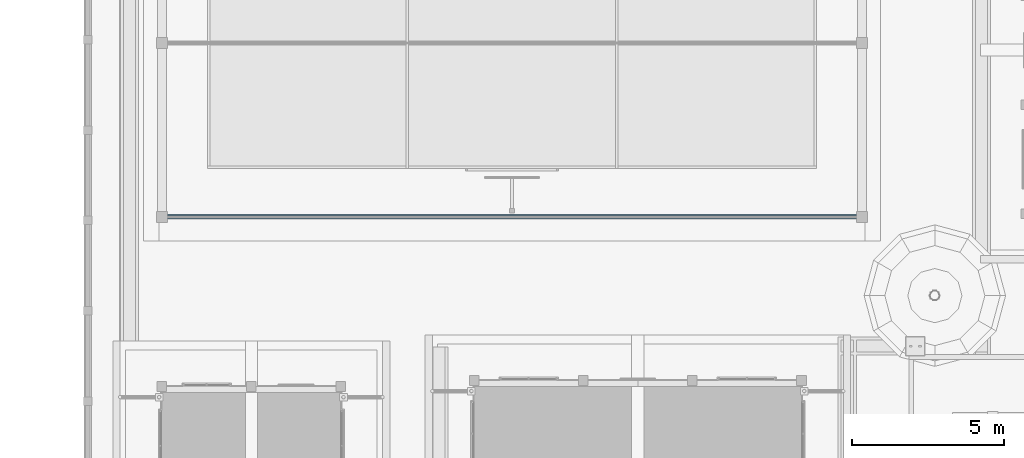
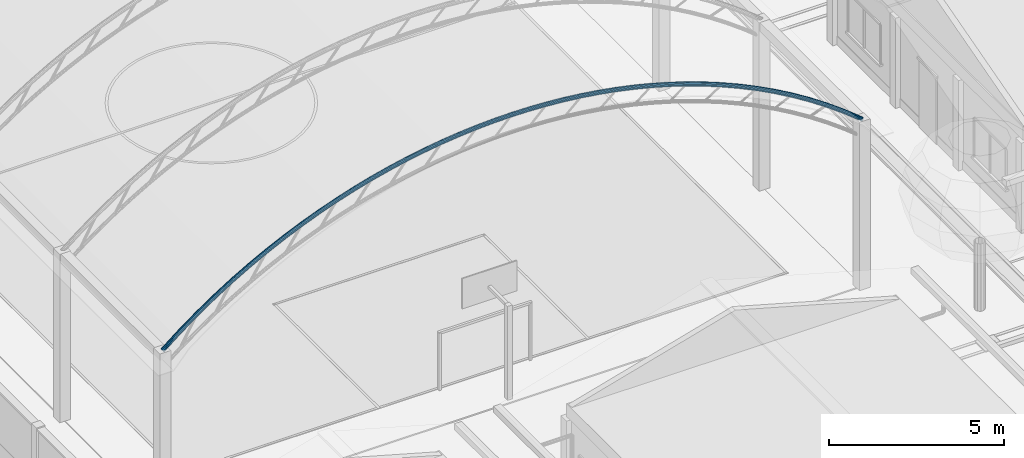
# One storey, part 17 of 177: 1 beam.
"""IFC4 building model written with IfcOpenShell, lengths in metres."""

from ifc_helpers import new_model, si_unit, origin, origin_with_axes, place, context, subcontext, project, spatial, triangles, element, save


model = new_model("IFC4")

# Units and contexts
model_context = context("Model", 3, precision=1e-05, world=origin_with_axes())
body_context = subcontext(model_context, "Body", "Model", "MODEL_VIEW")
ifc_project = project(units=[si_unit("LENGTHUNIT", "METRE"), si_unit("AREAUNIT", "SQUARE_METRE"), si_unit("VOLUMEUNIT", "CUBIC_METRE"), si_unit("PLANEANGLEUNIT", "RADIAN")], contexts=[model_context])

# Site, building, storey
site_placement = place(None, origin_with_axes())
site = spatial("IfcSite", under=ifc_project, at=site_placement, Name="Predio Los Mangos - Morales, San Martín", CompositionType="ELEMENT")
building_placement = place(site_placement, origin())
building = spatial("IfcBuilding", under=site, at=building_placement, Name="Hogar de Refugio Temporal", CompositionType="ELEMENT")
storey_placement = place(building_placement, origin())
storey = spatial("IfcBuildingStorey", under=building, at=storey_placement, Name="NIVEL 1 (NPT +0.00)", CompositionType="ELEMENT", Elevation=0.0)

# Beam
beam_placement = place(storey_placement, origin())
element("IfcBeam", 1, at=beam_placement, inside=storey, Name="arco", ObjectType="Viga", PredefinedType="BEAM", context=body_context, shape_type="Tessellation", body=[
    triangles([(3.4781, 92.6606, 5.9773), (3.462, 92.635, 5.9973), (3.4562, 92.6, 6.0046), (3.462, 92.565, 5.9973), (3.4781, 92.5394, 5.9773), (3.5, 92.53, 5.95), (3.5219, 92.5394, 5.9227), (3.538, 92.565, 5.9027), (3.5438, 92.6, 5.8954), (3.538, 92.635, 5.9027), (3.5219, 92.6606, 5.9227), (3.5, 92.67, 5.95), (4.0561, 92.6606, 6.4418), (4.0405, 92.635, 6.4621), (4.0348, 92.6, 6.4695), (4.0405, 92.565, 6.4621), (4.0561, 92.5394, 6.4418), (4.0775, 92.53, 6.4141), (4.0989, 92.5394, 6.3864), (4.1145, 92.565, 6.3661), (4.1202, 92.6, 6.3586), (4.1145, 92.635, 6.3661), (4.0989, 92.6606, 6.3864), (4.0775, 92.67, 6.4141), (4.6348, 92.6606, 6.8694), (4.6199, 92.635, 6.8903), (4.6145, 92.6, 6.8979), (4.6199, 92.565, 6.8903), (4.6348, 92.5394, 6.8694), (4.655, 92.53, 6.8408), (4.6752, 92.5394, 6.8123), (4.6901, 92.565, 6.7914), (4.6955, 92.6, 6.7837), (4.6901, 92.635, 6.7914), (4.6752, 92.6606, 6.8123), (4.655, 92.67, 6.8408), (5.2134, 92.6606, 7.2627), (5.1994, 92.635, 7.2841), (5.1943, 92.6, 7.292), (5.1994, 92.565, 7.2841), (5.2134, 92.5394, 7.2627), (5.2325, 92.53, 7.2333), (5.2516, 92.5394, 7.204), (5.2656, 92.565, 7.1826), (5.2707, 92.6, 7.1747), (5.2656, 92.635, 7.1826), (5.2516, 92.6606, 7.204), (5.2325, 92.67, 7.2333), (5.792, 92.6606, 7.6243), (5.7788, 92.635, 7.6463), (5.774, 92.6, 7.6543), (5.7788, 92.565, 7.6463), (5.792, 92.5394, 7.6243), (5.81, 92.53, 7.5943), (5.828, 92.5394, 7.5643), (5.8412, 92.565, 7.5423), (5.846, 92.6, 7.5343), (5.8412, 92.635, 7.5423), (5.828, 92.6606, 7.5643), (5.81, 92.67, 7.5943), (6.3706, 92.6606, 7.9565), (6.3583, 92.635, 7.979), (6.3538, 92.6, 7.9872), (6.3583, 92.565, 7.979), (6.3706, 92.5394, 7.9565), (6.3875, 92.53, 7.9259), (6.4044, 92.5394, 7.8952), (6.4167, 92.565, 7.8727), (6.4212, 92.6, 7.8645), (6.4167, 92.635, 7.8727), (6.4044, 92.6606, 7.8952), (6.3875, 92.67, 7.9259), (6.9493, 92.6606, 8.2611), (6.9377, 92.635, 8.284), (6.9335, 92.6, 8.2923), (6.9377, 92.565, 8.284), (6.9493, 92.5394, 8.2611), (6.965, 92.53, 8.2298), (6.9807, 92.5394, 8.1986), (6.9923, 92.565, 8.1757), (6.9965, 92.6, 8.1673), (6.9923, 92.635, 8.1757), (6.9807, 92.6606, 8.1986), (6.965, 92.67, 8.2298), (7.5279, 92.6606, 8.5395), (7.5172, 92.635, 8.5628), (7.5133, 92.6, 8.5713), (7.5172, 92.565, 8.5628), (7.5279, 92.5394, 8.5395), (7.5425, 92.53, 8.5077), (7.5571, 92.5394, 8.4759), (7.5678, 92.565, 8.4527), (7.5717, 92.6, 8.4441), (7.5678, 92.635, 8.4527), (7.5571, 92.6606, 8.4759), (7.5425, 92.67, 8.5077), (8.1065, 92.6606, 8.7932), (8.0966, 92.635, 8.8169), (8.093, 92.6, 8.8255), (8.0966, 92.565, 8.8169), (8.1065, 92.5394, 8.7932), (8.12, 92.53, 8.7609), (8.1335, 92.5394, 8.7286), (8.1434, 92.565, 8.705), (8.147, 92.6, 8.6963), (8.1434, 92.635, 8.705), (8.1335, 92.6606, 8.7286), (8.12, 92.67, 8.7609), (8.6851, 92.6606, 9.0232), (8.6761, 92.635, 9.0472), (8.6728, 92.6, 9.056), (8.6761, 92.565, 9.0472), (8.6851, 92.5394, 9.0232), (8.6975, 92.53, 8.9905), (8.7099, 92.5394, 8.9578), (8.7189, 92.565, 8.9338), (8.7222, 92.6, 8.925), (8.7189, 92.635, 8.9338), (8.7099, 92.6606, 8.9578), (8.6975, 92.67, 8.9905), (9.2638, 92.6606, 9.2305), (9.2555, 92.635, 9.2548), (9.2525, 92.6, 9.2637), (9.2555, 92.565, 9.2548), (9.2638, 92.5394, 9.2305), (9.275, 92.53, 9.1974), (9.2862, 92.5394, 9.1642), (9.2945, 92.565, 9.14), (9.2975, 92.6, 9.1311), (9.2945, 92.635, 9.14), (9.2862, 92.6606, 9.1642), (9.275, 92.67, 9.1974), (9.8424, 92.6606, 9.416), (9.835, 92.635, 9.4405), (9.8323, 92.6, 9.4495), (9.835, 92.565, 9.4405), (9.8424, 92.5394, 9.416), (9.8525, 92.53, 9.3824), (9.8626, 92.5394, 9.3489), (9.87, 92.565, 9.3244), (9.8727, 92.6, 9.3154), (9.87, 92.635, 9.3244), (9.8626, 92.6606, 9.3489), (9.8525, 92.67, 9.3824), (10.421, 92.6606, 9.5802), (10.4144, 92.635, 9.6049), (10.412, 92.6, 9.614), (10.4144, 92.565, 9.6049), (10.421, 92.5394, 9.5802), (10.43, 92.53, 9.5463), (10.439, 92.5394, 9.5125), (10.4456, 92.565, 9.4878), (10.448, 92.6, 9.4787), (10.4456, 92.635, 9.4878), (10.439, 92.6606, 9.5125), (10.43, 92.67, 9.5463), (10.9996, 92.6606, 9.7238), (10.9939, 92.635, 9.7488), (10.9918, 92.6, 9.7579), (10.9939, 92.565, 9.7488), (10.9996, 92.5394, 9.7238), (11.0075, 92.53, 9.6897), (11.0154, 92.5394, 9.6556), (11.0211, 92.565, 9.6306), (11.0232, 92.6, 9.6215), (11.0211, 92.635, 9.6306), (11.0154, 92.6606, 9.6556), (11.0075, 92.67, 9.6897), (11.5783, 92.6606, 9.8473), (11.5733, 92.635, 9.8725), (11.5715, 92.6, 9.8817), (11.5733, 92.565, 9.8725), (11.5783, 92.5394, 9.8473), (11.585, 92.53, 9.813), (11.5917, 92.5394, 9.7786), (11.5967, 92.565, 9.7535), (11.5985, 92.6, 9.7443), (11.5967, 92.635, 9.7535), (11.5917, 92.6606, 9.7786), (11.585, 92.67, 9.813), (12.1569, 92.6606, 9.9512), (12.1528, 92.635, 9.9765), (12.1513, 92.6, 9.9857), (12.1528, 92.565, 9.9765), (12.1569, 92.5394, 9.9512), (12.1625, 92.53, 9.9166), (12.1681, 92.5394, 9.8821), (12.1722, 92.565, 9.8568), (12.1737, 92.6, 9.8476), (12.1722, 92.635, 9.8568), (12.1681, 92.6606, 9.8821), (12.1625, 92.67, 9.9166), (12.7355, 92.6606, 10.0357), (12.7322, 92.635, 10.0611), (12.731, 92.6, 10.0704), (12.7322, 92.565, 10.0611), (12.7355, 92.5394, 10.0357), (12.74, 92.53, 10.001), (12.7445, 92.5394, 9.9663), (12.7478, 92.565, 9.9409), (12.749, 92.6, 9.9316), (12.7478, 92.635, 9.9409), (12.7445, 92.6606, 9.9663), (12.74, 92.67, 10.001), (13.3141, 92.6606, 10.1012), (13.3117, 92.635, 10.1267), (13.3108, 92.6, 10.136), (13.3117, 92.565, 10.1267), (13.3141, 92.5394, 10.1012), (13.3175, 92.53, 10.0663), (13.3209, 92.5394, 10.0315), (13.3233, 92.565, 10.006), (13.3242, 92.6, 9.9967), (13.3233, 92.635, 10.006), (13.3209, 92.6606, 10.0315), (13.3175, 92.67, 10.0663), (13.8928, 92.6606, 10.1478), (13.8911, 92.635, 10.1734), (13.8905, 92.6, 10.1827), (13.8911, 92.565, 10.1734), (13.8928, 92.5394, 10.1478), (13.895, 92.53, 10.1129), (13.8972, 92.5394, 10.0779), (13.8989, 92.565, 10.0524), (13.8995, 92.6, 10.043), (13.8989, 92.635, 10.0524), (13.8972, 92.6606, 10.0779), (13.895, 92.67, 10.1129), (14.4714, 92.6606, 10.1757), (14.4706, 92.635, 10.2013), (14.4703, 92.6, 10.2107), (14.4706, 92.565, 10.2013), (14.4714, 92.5394, 10.1757), (14.4725, 92.53, 10.1407), (14.4736, 92.5394, 10.1057), (14.4744, 92.565, 10.0801), (14.4747, 92.6, 10.0708), (14.4744, 92.635, 10.0801), (14.4736, 92.6606, 10.1057), (14.4725, 92.67, 10.1407), (15.05, 92.6606, 10.185), (15.05, 92.635, 10.2106), (15.05, 92.6, 10.22), (15.05, 92.565, 10.2106), (15.05, 92.5394, 10.185), (15.05, 92.53, 10.15), (15.05, 92.5394, 10.115), (15.05, 92.565, 10.0894), (15.05, 92.6, 10.08), (15.05, 92.635, 10.0894), (15.05, 92.6606, 10.115), (15.05, 92.67, 10.15), (15.6286, 92.6606, 10.1757), (15.6294, 92.635, 10.2013), (15.6297, 92.6, 10.2107), (15.6294, 92.565, 10.2013), (15.6286, 92.5394, 10.1757), (15.6275, 92.53, 10.1407), (15.6264, 92.5394, 10.1057), (15.6256, 92.565, 10.0801), (15.6253, 92.6, 10.0708), (15.6256, 92.635, 10.0801), (15.6264, 92.6606, 10.1057), (15.6275, 92.67, 10.1407), (16.2072, 92.6606, 10.1478), (16.2089, 92.635, 10.1734), (16.2095, 92.6, 10.1827), (16.2089, 92.565, 10.1734), (16.2072, 92.5394, 10.1478), (16.205, 92.53, 10.1129), (16.2028, 92.5394, 10.0779), (16.2011, 92.565, 10.0524), (16.2005, 92.6, 10.043), (16.2011, 92.635, 10.0524), (16.2028, 92.6606, 10.0779), (16.205, 92.67, 10.1129), (16.7859, 92.6606, 10.1012), (16.7883, 92.635, 10.1267), (16.7892, 92.6, 10.136), (16.7883, 92.565, 10.1267), (16.7859, 92.5394, 10.1012), (16.7825, 92.53, 10.0663), (16.7791, 92.5394, 10.0315), (16.7767, 92.565, 10.006), (16.7758, 92.6, 9.9967), (16.7767, 92.635, 10.006), (16.7791, 92.6606, 10.0315), (16.7825, 92.67, 10.0663), (17.3645, 92.6606, 10.0357), (17.3678, 92.635, 10.0611), (17.369, 92.6, 10.0704), (17.3678, 92.565, 10.0611), (17.3645, 92.5394, 10.0357), (17.36, 92.53, 10.001), (17.3555, 92.5394, 9.9663), (17.3522, 92.565, 9.9409), (17.351, 92.6, 9.9316), (17.3522, 92.635, 9.9409), (17.3555, 92.6606, 9.9663), (17.36, 92.67, 10.001), (17.9431, 92.6606, 9.9512), (17.9472, 92.635, 9.9765), (17.9487, 92.6, 9.9857), (17.9472, 92.565, 9.9765), (17.9431, 92.5394, 9.9512), (17.9375, 92.53, 9.9166), (17.9319, 92.5394, 9.8821), (17.9278, 92.565, 9.8568), (17.9263, 92.6, 9.8476), (17.9278, 92.635, 9.8568), (17.9319, 92.6606, 9.8821), (17.9375, 92.67, 9.9166), (18.5217, 92.6606, 9.8473), (18.5267, 92.635, 9.8725), (18.5285, 92.6, 9.8817), (18.5267, 92.565, 9.8725), (18.5217, 92.5394, 9.8473), (18.515, 92.53, 9.813), (18.5083, 92.5394, 9.7786), (18.5033, 92.565, 9.7535), (18.5015, 92.6, 9.7443), (18.5033, 92.635, 9.7535), (18.5083, 92.6606, 9.7786), (18.515, 92.67, 9.813), (19.1004, 92.6606, 9.7238), (19.1061, 92.635, 9.7488), (19.1082, 92.6, 9.7579), (19.1061, 92.565, 9.7488), (19.1004, 92.5394, 9.7238), (19.0925, 92.53, 9.6897), (19.0846, 92.5394, 9.6556), (19.0789, 92.565, 9.6306), (19.0768, 92.6, 9.6215), (19.0789, 92.635, 9.6306), (19.0846, 92.6606, 9.6556), (19.0925, 92.67, 9.6897), (19.679, 92.6606, 9.5802), (19.6856, 92.635, 9.6049), (19.688, 92.6, 9.614), (19.6856, 92.565, 9.6049), (19.679, 92.5394, 9.5802), (19.67, 92.53, 9.5463), (19.661, 92.5394, 9.5125), (19.6544, 92.565, 9.4878), (19.652, 92.6, 9.4787), (19.6544, 92.635, 9.4878), (19.661, 92.6606, 9.5125), (19.67, 92.67, 9.5463), (20.2576, 92.6606, 9.416), (20.265, 92.635, 9.4405), (20.2677, 92.6, 9.4495), (20.265, 92.565, 9.4405), (20.2576, 92.5394, 9.416), (20.2475, 92.53, 9.3824), (20.2374, 92.5394, 9.3489), (20.23, 92.565, 9.3244), (20.2273, 92.6, 9.3154), (20.23, 92.635, 9.3244), (20.2374, 92.6606, 9.3489), (20.2475, 92.67, 9.3824), (20.8362, 92.6606, 9.2305), (20.8445, 92.635, 9.2548), (20.8475, 92.6, 9.2637), (20.8445, 92.565, 9.2548), (20.8362, 92.5394, 9.2305), (20.825, 92.53, 9.1974), (20.8138, 92.5394, 9.1642), (20.8055, 92.565, 9.14), (20.8025, 92.6, 9.1311), (20.8055, 92.635, 9.14), (20.8138, 92.6606, 9.1642), (20.825, 92.67, 9.1974), (21.4149, 92.6606, 9.0232), (21.4239, 92.635, 9.0472), (21.4272, 92.6, 9.056), (21.4239, 92.565, 9.0472), (21.4149, 92.5394, 9.0232), (21.4025, 92.53, 8.9905), (21.3901, 92.5394, 8.9578), (21.3811, 92.565, 8.9338), (21.3778, 92.6, 8.925), (21.3811, 92.635, 8.9338), (21.3901, 92.6606, 8.9578), (21.4025, 92.67, 8.9905), (21.9935, 92.6606, 8.7932), (22.0034, 92.635, 8.8169), (22.007, 92.6, 8.8255), (22.0034, 92.565, 8.8169), (21.9935, 92.5394, 8.7932), (21.98, 92.53, 8.7609), (21.9665, 92.5394, 8.7286), (21.9566, 92.565, 8.705), (21.953, 92.6, 8.6963), (21.9566, 92.635, 8.705), (21.9665, 92.6606, 8.7286), (21.98, 92.67, 8.7609), (22.5721, 92.6606, 8.5395), (22.5828, 92.635, 8.5628), (22.5867, 92.6, 8.5713), (22.5828, 92.565, 8.5628), (22.5721, 92.5394, 8.5395), (22.5575, 92.53, 8.5077), (22.5429, 92.5394, 8.4759), (22.5322, 92.565, 8.4527), (22.5283, 92.6, 8.4441), (22.5322, 92.635, 8.4527), (22.5429, 92.6606, 8.4759), (22.5575, 92.67, 8.5077), (23.1507, 92.6606, 8.2611), (23.1623, 92.635, 8.284), (23.1665, 92.6, 8.2923), (23.1623, 92.565, 8.284), (23.1507, 92.5394, 8.2611), (23.135, 92.53, 8.2298), (23.1193, 92.5394, 8.1986), (23.1077, 92.565, 8.1757), (23.1035, 92.6, 8.1673), (23.1077, 92.635, 8.1757), (23.1193, 92.6606, 8.1986), (23.135, 92.67, 8.2298), (23.7294, 92.6606, 7.9565), (23.7417, 92.635, 7.979), (23.7462, 92.6, 7.9872), (23.7417, 92.565, 7.979), (23.7294, 92.5394, 7.9565), (23.7125, 92.53, 7.9259), (23.6956, 92.5394, 7.8952), (23.6833, 92.565, 7.8727), (23.6788, 92.6, 7.8645), (23.6833, 92.635, 7.8727), (23.6956, 92.6606, 7.8952), (23.7125, 92.67, 7.9259), (24.308, 92.6606, 7.6243), (24.3212, 92.635, 7.6463), (24.326, 92.6, 7.6543), (24.3212, 92.565, 7.6463), (24.308, 92.5394, 7.6243), (24.29, 92.53, 7.5943), (24.272, 92.5394, 7.5643), (24.2588, 92.565, 7.5423), (24.254, 92.6, 7.5343), (24.2588, 92.635, 7.5423), (24.272, 92.6606, 7.5643), (24.29, 92.67, 7.5943), (24.8866, 92.6606, 7.2627), (24.9006, 92.635, 7.2841), (24.9057, 92.6, 7.292), (24.9006, 92.565, 7.2841), (24.8866, 92.5394, 7.2627), (24.8675, 92.53, 7.2333), (24.8484, 92.5394, 7.204), (24.8344, 92.565, 7.1826), (24.8293, 92.6, 7.1747), (24.8344, 92.635, 7.1826), (24.8484, 92.6606, 7.204), (24.8675, 92.67, 7.2333), (25.4652, 92.6606, 6.8694), (25.4801, 92.635, 6.8903), (25.4855, 92.6, 6.8979), (25.4801, 92.565, 6.8903), (25.4652, 92.5394, 6.8694), (25.445, 92.53, 6.8408), (25.4248, 92.5394, 6.8123), (25.4099, 92.565, 6.7914), (25.4045, 92.6, 6.7837), (25.4099, 92.635, 6.7914), (25.4248, 92.6606, 6.8123), (25.445, 92.67, 6.8408), (26.0439, 92.6606, 6.4418), (26.0595, 92.635, 6.4621), (26.0652, 92.6, 6.4695), (26.0595, 92.565, 6.4621), (26.0439, 92.5394, 6.4418), (26.0225, 92.53, 6.4141), (26.0011, 92.5394, 6.3864), (25.9855, 92.565, 6.3661), (25.9798, 92.6, 6.3586), (25.9855, 92.635, 6.3661), (26.0011, 92.6606, 6.3864), (26.0225, 92.67, 6.4141), (26.6219, 92.6606, 5.9773), (26.638, 92.635, 5.9973), (26.6438, 92.6, 6.0046), (26.638, 92.565, 5.9973), (26.6219, 92.5394, 5.9773), (26.6, 92.53, 5.95), (26.5781, 92.5394, 5.9227), (26.562, 92.565, 5.9027), (26.5562, 92.6, 5.8954), (26.562, 92.635, 5.9027), (26.5781, 92.6606, 5.9227), (26.6, 92.67, 5.95)], [[1, 13, 24], [1, 24, 12], [2, 14, 13], [2, 13, 1], [3, 15, 14], [3, 14, 2], [4, 16, 15], [4, 15, 3], [5, 17, 16], [5, 16, 4], [6, 18, 17], [6, 17, 5], [7, 19, 18], [7, 18, 6], [8, 20, 19], [8, 19, 7], [9, 21, 20], [9, 20, 8], [10, 22, 21], [10, 21, 9], [11, 23, 22], [11, 22, 10], [12, 24, 23], [12, 23, 11], [13, 25, 36], [13, 36, 24], [14, 26, 25], [14, 25, 13], [15, 27, 26], [15, 26, 14], [16, 28, 27], [16, 27, 15], [17, 29, 28], [17, 28, 16], [18, 30, 29], [18, 29, 17], [19, 31, 30], [19, 30, 18], [20, 32, 31], [20, 31, 19], [21, 33, 32], [21, 32, 20], [22, 34, 33], [22, 33, 21], [23, 35, 34], [23, 34, 22], [24, 36, 35], [24, 35, 23], [25, 37, 48], [25, 48, 36], [26, 38, 37], [26, 37, 25], [27, 39, 38], [27, 38, 26], [28, 40, 39], [28, 39, 27], [29, 41, 40], [29, 40, 28], [30, 42, 41], [30, 41, 29], [31, 43, 42], [31, 42, 30], [32, 44, 43], [32, 43, 31], [33, 45, 44], [33, 44, 32], [34, 46, 45], [34, 45, 33], [35, 47, 46], [35, 46, 34], [36, 48, 47], [36, 47, 35], [37, 49, 60], [37, 60, 48], [38, 50, 49], [38, 49, 37], [39, 51, 50], [39, 50, 38], [40, 52, 51], [40, 51, 39], [41, 53, 52], [41, 52, 40], [42, 54, 53], [42, 53, 41], [43, 55, 54], [43, 54, 42], [44, 56, 55], [44, 55, 43], [45, 57, 56], [45, 56, 44], [46, 58, 57], [46, 57, 45], [47, 59, 58], [47, 58, 46], [48, 60, 59], [48, 59, 47], [49, 61, 72], [49, 72, 60], [50, 62, 61], [50, 61, 49], [51, 63, 62], [51, 62, 50], [52, 64, 63], [52, 63, 51], [53, 65, 64], [53, 64, 52], [54, 66, 65], [54, 65, 53], [55, 67, 66], [55, 66, 54], [56, 68, 67], [56, 67, 55], [57, 69, 68], [57, 68, 56], [58, 70, 69], [58, 69, 57], [59, 71, 70], [59, 70, 58], [60, 72, 71], [60, 71, 59], [61, 73, 84], [61, 84, 72], [62, 74, 73], [62, 73, 61], [63, 75, 74], [63, 74, 62], [64, 76, 75], [64, 75, 63], [65, 77, 76], [65, 76, 64], [66, 78, 77], [66, 77, 65], [67, 79, 78], [67, 78, 66], [68, 80, 79], [68, 79, 67], [69, 81, 80], [69, 80, 68], [70, 82, 81], [70, 81, 69], [71, 83, 82], [71, 82, 70], [72, 84, 83], [72, 83, 71], [73, 85, 96], [73, 96, 84], [74, 86, 85], [74, 85, 73], [75, 87, 86], [75, 86, 74], [76, 88, 87], [76, 87, 75], [77, 89, 88], [77, 88, 76], [78, 90, 89], [78, 89, 77], [79, 91, 90], [79, 90, 78], [80, 92, 91], [80, 91, 79], [81, 93, 92], [81, 92, 80], [82, 94, 93], [82, 93, 81], [83, 95, 94], [83, 94, 82], [84, 96, 95], [84, 95, 83], [85, 97, 108], [85, 108, 96], [86, 98, 97], [86, 97, 85], [87, 99, 98], [87, 98, 86], [88, 100, 99], [88, 99, 87], [89, 101, 100], [89, 100, 88], [90, 102, 101], [90, 101, 89], [91, 103, 102], [91, 102, 90], [92, 104, 103], [92, 103, 91], [93, 105, 104], [93, 104, 92], [94, 106, 105], [94, 105, 93], [95, 107, 106], [95, 106, 94], [96, 108, 107], [96, 107, 95], [97, 109, 120], [97, 120, 108], [98, 110, 109], [98, 109, 97], [99, 111, 110], [99, 110, 98], [100, 112, 111], [100, 111, 99], [101, 113, 112], [101, 112, 100], [102, 114, 113], [102, 113, 101], [103, 115, 114], [103, 114, 102], [104, 116, 115], [104, 115, 103], [105, 117, 116], [105, 116, 104], [106, 118, 117], [106, 117, 105], [107, 119, 118], [107, 118, 106], [108, 120, 119], [108, 119, 107], [109, 121, 132], [109, 132, 120], [110, 122, 121], [110, 121, 109], [111, 123, 122], [111, 122, 110], [112, 124, 123], [112, 123, 111], [113, 125, 124], [113, 124, 112], [114, 126, 125], [114, 125, 113], [115, 127, 126], [115, 126, 114], [116, 128, 127], [116, 127, 115], [117, 129, 128], [117, 128, 116], [118, 130, 129], [118, 129, 117], [119, 131, 130], [119, 130, 118], [120, 132, 131], [120, 131, 119], [121, 133, 144], [121, 144, 132], [122, 134, 133], [122, 133, 121], [123, 135, 134], [123, 134, 122], [124, 136, 135], [124, 135, 123], [125, 137, 136], [125, 136, 124], [126, 138, 137], [126, 137, 125], [127, 139, 138], [127, 138, 126], [128, 140, 139], [128, 139, 127], [129, 141, 140], [129, 140, 128], [130, 142, 141], [130, 141, 129], [131, 143, 142], [131, 142, 130], [132, 144, 143], [132, 143, 131], [133, 145, 156], [133, 156, 144], [134, 146, 145], [134, 145, 133], [135, 147, 146], [135, 146, 134], [136, 148, 147], [136, 147, 135], [137, 149, 148], [137, 148, 136], [138, 150, 149], [138, 149, 137], [139, 151, 150], [139, 150, 138], [140, 152, 151], [140, 151, 139], [141, 153, 152], [141, 152, 140], [142, 154, 153], [142, 153, 141], [143, 155, 154], [143, 154, 142], [144, 156, 155], [144, 155, 143], [145, 157, 168], [145, 168, 156], [146, 158, 157], [146, 157, 145], [147, 159, 158], [147, 158, 146], [148, 160, 159], [148, 159, 147], [149, 161, 160], [149, 160, 148], [150, 162, 161], [150, 161, 149], [151, 163, 162], [151, 162, 150], [152, 164, 163], [152, 163, 151], [153, 165, 164], [153, 164, 152], [154, 166, 165], [154, 165, 153], [155, 167, 166], [155, 166, 154], [156, 168, 167], [156, 167, 155], [157, 169, 180], [157, 180, 168], [158, 170, 169], [158, 169, 157], [159, 171, 170], [159, 170, 158], [160, 172, 171], [160, 171, 159], [161, 173, 172], [161, 172, 160], [162, 174, 173], [162, 173, 161], [163, 175, 174], [163, 174, 162], [164, 176, 175], [164, 175, 163], [165, 177, 176], [165, 176, 164], [166, 178, 177], [166, 177, 165], [167, 179, 178], [167, 178, 166], [168, 180, 179], [168, 179, 167], [169, 181, 192], [169, 192, 180], [170, 182, 181], [170, 181, 169], [171, 183, 182], [171, 182, 170], [172, 184, 183], [172, 183, 171], [173, 185, 184], [173, 184, 172], [174, 186, 185], [174, 185, 173], [175, 187, 186], [175, 186, 174], [176, 188, 187], [176, 187, 175], [177, 189, 188], [177, 188, 176], [178, 190, 189], [178, 189, 177], [179, 191, 190], [179, 190, 178], [180, 192, 191], [180, 191, 179], [181, 193, 204], [181, 204, 192], [182, 194, 193], [182, 193, 181], [183, 195, 194], [183, 194, 182], [184, 196, 195], [184, 195, 183], [185, 197, 196], [185, 196, 184], [186, 198, 197], [186, 197, 185], [187, 199, 198], [187, 198, 186], [188, 200, 199], [188, 199, 187], [189, 201, 200], [189, 200, 188], [190, 202, 201], [190, 201, 189], [191, 203, 202], [191, 202, 190], [192, 204, 203], [192, 203, 191], [193, 205, 216], [193, 216, 204], [194, 206, 205], [194, 205, 193], [195, 207, 206], [195, 206, 194], [196, 208, 207], [196, 207, 195], [197, 209, 208], [197, 208, 196], [198, 210, 209], [198, 209, 197], [199, 211, 210], [199, 210, 198], [200, 212, 211], [200, 211, 199], [201, 213, 212], [201, 212, 200], [202, 214, 213], [202, 213, 201], [203, 215, 214], [203, 214, 202], [204, 216, 215], [204, 215, 203], [205, 217, 228], [205, 228, 216], [206, 218, 217], [206, 217, 205], [207, 219, 218], [207, 218, 206], [208, 220, 219], [208, 219, 207], [209, 221, 220], [209, 220, 208], [210, 222, 221], [210, 221, 209], [211, 223, 222], [211, 222, 210], [212, 224, 223], [212, 223, 211], [213, 225, 224], [213, 224, 212], [214, 226, 225], [214, 225, 213], [215, 227, 226], [215, 226, 214], [216, 228, 227], [216, 227, 215], [217, 229, 240], [217, 240, 228], [218, 230, 229], [218, 229, 217], [219, 231, 230], [219, 230, 218], [220, 232, 231], [220, 231, 219], [221, 233, 232], [221, 232, 220], [222, 234, 233], [222, 233, 221], [223, 235, 234], [223, 234, 222], [224, 236, 235], [224, 235, 223], [225, 237, 236], [225, 236, 224], [226, 238, 237], [226, 237, 225], [227, 239, 238], [227, 238, 226], [228, 240, 239], [228, 239, 227], [229, 241, 252], [229, 252, 240], [230, 242, 241], [230, 241, 229], [231, 243, 242], [231, 242, 230], [232, 244, 243], [232, 243, 231], [233, 245, 244], [233, 244, 232], [234, 246, 245], [234, 245, 233], [235, 247, 246], [235, 246, 234], [236, 248, 247], [236, 247, 235], [237, 249, 248], [237, 248, 236], [238, 250, 249], [238, 249, 237], [239, 251, 250], [239, 250, 238], [240, 252, 251], [240, 251, 239], [241, 253, 264], [241, 264, 252], [242, 254, 253], [242, 253, 241], [243, 255, 254], [243, 254, 242], [244, 256, 255], [244, 255, 243], [245, 257, 256], [245, 256, 244], [246, 258, 257], [246, 257, 245], [247, 259, 258], [247, 258, 246], [248, 260, 259], [248, 259, 247], [249, 261, 260], [249, 260, 248], [250, 262, 261], [250, 261, 249], [251, 263, 262], [251, 262, 250], [252, 264, 263], [252, 263, 251], [253, 265, 276], [253, 276, 264], [254, 266, 265], [254, 265, 253], [255, 267, 266], [255, 266, 254], [256, 268, 267], [256, 267, 255], [257, 269, 268], [257, 268, 256], [258, 270, 269], [258, 269, 257], [259, 271, 270], [259, 270, 258], [260, 272, 271], [260, 271, 259], [261, 273, 272], [261, 272, 260], [262, 274, 273], [262, 273, 261], [263, 275, 274], [263, 274, 262], [264, 276, 275], [264, 275, 263], [265, 277, 288], [265, 288, 276], [266, 278, 277], [266, 277, 265], [267, 279, 278], [267, 278, 266], [268, 280, 279], [268, 279, 267], [269, 281, 280], [269, 280, 268], [270, 282, 281], [270, 281, 269], [271, 283, 282], [271, 282, 270], [272, 284, 283], [272, 283, 271], [273, 285, 284], [273, 284, 272], [274, 286, 285], [274, 285, 273], [275, 287, 286], [275, 286, 274], [276, 288, 287], [276, 287, 275], [277, 289, 300], [277, 300, 288], [278, 290, 289], [278, 289, 277], [279, 291, 290], [279, 290, 278], [280, 292, 291], [280, 291, 279], [281, 293, 292], [281, 292, 280], [282, 294, 293], [282, 293, 281], [283, 295, 294], [283, 294, 282], [284, 296, 295], [284, 295, 283], [285, 297, 296], [285, 296, 284], [286, 298, 297], [286, 297, 285], [287, 299, 298], [287, 298, 286], [288, 300, 299], [288, 299, 287], [289, 301, 312], [289, 312, 300], [290, 302, 301], [290, 301, 289], [291, 303, 302], [291, 302, 290], [292, 304, 303], [292, 303, 291], [293, 305, 304], [293, 304, 292], [294, 306, 305], [294, 305, 293], [295, 307, 306], [295, 306, 294], [296, 308, 307], [296, 307, 295], [297, 309, 308], [297, 308, 296], [298, 310, 309], [298, 309, 297], [299, 311, 310], [299, 310, 298], [300, 312, 311], [300, 311, 299], [301, 313, 324], [301, 324, 312], [302, 314, 313], [302, 313, 301], [303, 315, 314], [303, 314, 302], [304, 316, 315], [304, 315, 303], [305, 317, 316], [305, 316, 304], [306, 318, 317], [306, 317, 305], [307, 319, 318], [307, 318, 306], [308, 320, 319], [308, 319, 307], [309, 321, 320], [309, 320, 308], [310, 322, 321], [310, 321, 309], [311, 323, 322], [311, 322, 310], [312, 324, 323], [312, 323, 311], [313, 325, 336], [313, 336, 324], [314, 326, 325], [314, 325, 313], [315, 327, 326], [315, 326, 314], [316, 328, 327], [316, 327, 315], [317, 329, 328], [317, 328, 316], [318, 330, 329], [318, 329, 317], [319, 331, 330], [319, 330, 318], [320, 332, 331], [320, 331, 319], [321, 333, 332], [321, 332, 320], [322, 334, 333], [322, 333, 321], [323, 335, 334], [323, 334, 322], [324, 336, 335], [324, 335, 323], [325, 337, 348], [325, 348, 336], [326, 338, 337], [326, 337, 325], [327, 339, 338], [327, 338, 326], [328, 340, 339], [328, 339, 327], [329, 341, 340], [329, 340, 328], [330, 342, 341], [330, 341, 329], [331, 343, 342], [331, 342, 330], [332, 344, 343], [332, 343, 331], [333, 345, 344], [333, 344, 332], [334, 346, 345], [334, 345, 333], [335, 347, 346], [335, 346, 334], [336, 348, 347], [336, 347, 335], [337, 349, 360], [337, 360, 348], [338, 350, 349], [338, 349, 337], [339, 351, 350], [339, 350, 338], [340, 352, 351], [340, 351, 339], [341, 353, 352], [341, 352, 340], [342, 354, 353], [342, 353, 341], [343, 355, 354], [343, 354, 342], [344, 356, 355], [344, 355, 343], [345, 357, 356], [345, 356, 344], [346, 358, 357], [346, 357, 345], [347, 359, 358], [347, 358, 346], [348, 360, 359], [348, 359, 347], [349, 361, 372], [349, 372, 360], [350, 362, 361], [350, 361, 349], [351, 363, 362], [351, 362, 350], [352, 364, 363], [352, 363, 351], [353, 365, 364], [353, 364, 352], [354, 366, 365], [354, 365, 353], [355, 367, 366], [355, 366, 354], [356, 368, 367], [356, 367, 355], [357, 369, 368], [357, 368, 356], [358, 370, 369], [358, 369, 357], [359, 371, 370], [359, 370, 358], [360, 372, 371], [360, 371, 359], [361, 373, 384], [361, 384, 372], [362, 374, 373], [362, 373, 361], [363, 375, 374], [363, 374, 362], [364, 376, 375], [364, 375, 363], [365, 377, 376], [365, 376, 364], [366, 378, 377], [366, 377, 365], [367, 379, 378], [367, 378, 366], [368, 380, 379], [368, 379, 367], [369, 381, 380], [369, 380, 368], [370, 382, 381], [370, 381, 369], [371, 383, 382], [371, 382, 370], [372, 384, 383], [372, 383, 371], [373, 385, 396], [373, 396, 384], [374, 386, 385], [374, 385, 373], [375, 387, 386], [375, 386, 374], [376, 388, 387], [376, 387, 375], [377, 389, 388], [377, 388, 376], [378, 390, 389], [378, 389, 377], [379, 391, 390], [379, 390, 378], [380, 392, 391], [380, 391, 379], [381, 393, 392], [381, 392, 380], [382, 394, 393], [382, 393, 381], [383, 395, 394], [383, 394, 382], [384, 396, 395], [384, 395, 383], [385, 397, 408], [385, 408, 396], [386, 398, 397], [386, 397, 385], [387, 399, 398], [387, 398, 386], [388, 400, 399], [388, 399, 387], [389, 401, 400], [389, 400, 388], [390, 402, 401], [390, 401, 389], [391, 403, 402], [391, 402, 390], [392, 404, 403], [392, 403, 391], [393, 405, 404], [393, 404, 392], [394, 406, 405], [394, 405, 393], [395, 407, 406], [395, 406, 394], [396, 408, 407], [396, 407, 395], [397, 409, 420], [397, 420, 408], [398, 410, 409], [398, 409, 397], [399, 411, 410], [399, 410, 398], [400, 412, 411], [400, 411, 399], [401, 413, 412], [401, 412, 400], [402, 414, 413], [402, 413, 401], [403, 415, 414], [403, 414, 402], [404, 416, 415], [404, 415, 403], [405, 417, 416], [405, 416, 404], [406, 418, 417], [406, 417, 405], [407, 419, 418], [407, 418, 406], [408, 420, 419], [408, 419, 407], [409, 421, 432], [409, 432, 420], [410, 422, 421], [410, 421, 409], [411, 423, 422], [411, 422, 410], [412, 424, 423], [412, 423, 411], [413, 425, 424], [413, 424, 412], [414, 426, 425], [414, 425, 413], [415, 427, 426], [415, 426, 414], [416, 428, 427], [416, 427, 415], [417, 429, 428], [417, 428, 416], [418, 430, 429], [418, 429, 417], [419, 431, 430], [419, 430, 418], [420, 432, 431], [420, 431, 419], [421, 433, 444], [421, 444, 432], [422, 434, 433], [422, 433, 421], [423, 435, 434], [423, 434, 422], [424, 436, 435], [424, 435, 423], [425, 437, 436], [425, 436, 424], [426, 438, 437], [426, 437, 425], [427, 439, 438], [427, 438, 426], [428, 440, 439], [428, 439, 427], [429, 441, 440], [429, 440, 428], [430, 442, 441], [430, 441, 429], [431, 443, 442], [431, 442, 430], [432, 444, 443], [432, 443, 431], [433, 445, 456], [433, 456, 444], [434, 446, 445], [434, 445, 433], [435, 447, 446], [435, 446, 434], [436, 448, 447], [436, 447, 435], [437, 449, 448], [437, 448, 436], [438, 450, 449], [438, 449, 437], [439, 451, 450], [439, 450, 438], [440, 452, 451], [440, 451, 439], [441, 453, 452], [441, 452, 440], [442, 454, 453], [442, 453, 441], [443, 455, 454], [443, 454, 442], [444, 456, 455], [444, 455, 443], [445, 457, 468], [445, 468, 456], [446, 458, 457], [446, 457, 445], [447, 459, 458], [447, 458, 446], [448, 460, 459], [448, 459, 447], [449, 461, 460], [449, 460, 448], [450, 462, 461], [450, 461, 449], [451, 463, 462], [451, 462, 450], [452, 464, 463], [452, 463, 451], [453, 465, 464], [453, 464, 452], [454, 466, 465], [454, 465, 453], [455, 467, 466], [455, 466, 454], [456, 468, 467], [456, 467, 455], [457, 469, 480], [457, 480, 468], [458, 470, 469], [458, 469, 457], [459, 471, 470], [459, 470, 458], [460, 472, 471], [460, 471, 459], [461, 473, 472], [461, 472, 460], [462, 474, 473], [462, 473, 461], [463, 475, 474], [463, 474, 462], [464, 476, 475], [464, 475, 463], [465, 477, 476], [465, 476, 464], [466, 478, 477], [466, 477, 465], [467, 479, 478], [467, 478, 466], [468, 480, 479], [468, 479, 467], [469, 481, 492], [469, 492, 480], [470, 482, 481], [470, 481, 469], [471, 483, 482], [471, 482, 470], [472, 484, 483], [472, 483, 471], [473, 485, 484], [473, 484, 472], [474, 486, 485], [474, 485, 473], [475, 487, 486], [475, 486, 474], [476, 488, 487], [476, 487, 475], [477, 489, 488], [477, 488, 476], [478, 490, 489], [478, 489, 477], [479, 491, 490], [479, 490, 478], [480, 492, 491], [480, 491, 479]]),
])

save(model, "model.ifc")
